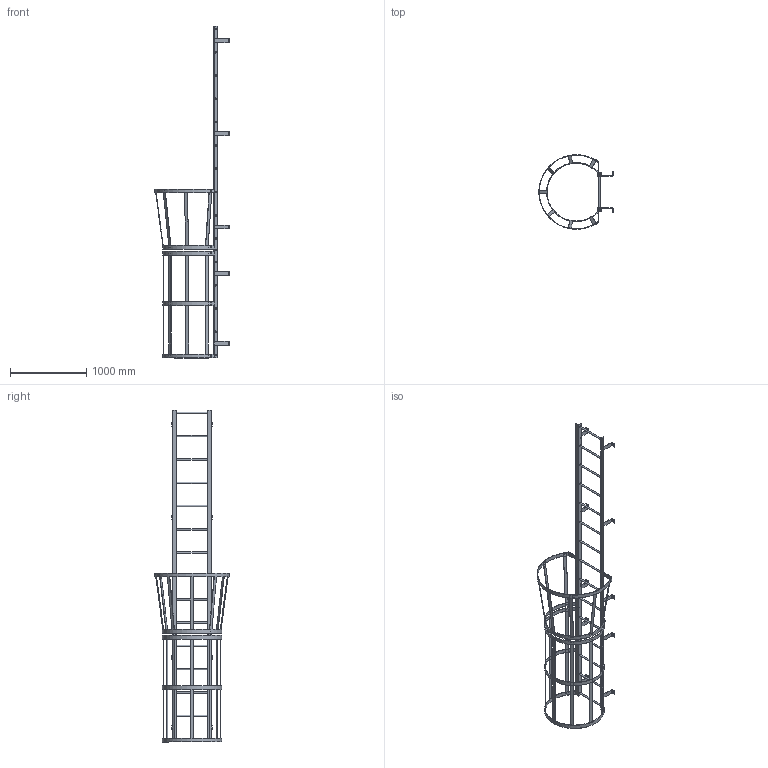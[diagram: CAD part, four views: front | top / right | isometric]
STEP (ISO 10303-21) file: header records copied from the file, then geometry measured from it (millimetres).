
FILE_DESCRIPTION(/* description */ (''),/* implementation_level */ '2;1');
FILE_NAME(/* name */ 'P:\MIKEL & KAREN\D0570195-01 F15SC SIMPLIFIED PART.stp',/* time_stamp */ '2018-07-03T08:02:58-04:00',/* author */ ('stephanie'),/* organization */ (''),/* preprocessor_version */ 'ST-DEVELOPER v16.1',/* originating_system */ 'Autodesk Inventor 2016',/* authorisation */ '');
FILE_SCHEMA (('AUTOMOTIVE_DESIGN { 1 0 10303 214 3 1 1 }'));
Length unit declared in the file: centimetre
Products named in the file (1): D0570195-01 F15SC SIMPLIFIED PART
Bounding box: 973.37 x 977.88 x 4343.4 mm (x, y, z)
Volume: 13946016.4 mm3; surface area: 4746238.7 mm2
Topology: 23 solids, 23 shells, 514 faces, 1532 edges, 996 vertices
Faces by surface type: plane 358, cylinder 156
Full cylindrical faces by diameter (mm): 14.287 x12, 19.05 x15, 22.225 x30
Entity records: 17469 total; most frequent: ORIENTED_EDGE 2950, CARTESIAN_POINT 2902, DIRECTION 2875, EDGE_CURVE 1433, LINE 1021, VECTOR 1021, VERTEX_POINT 954, AXIS2_PLACEMENT_3D 927
